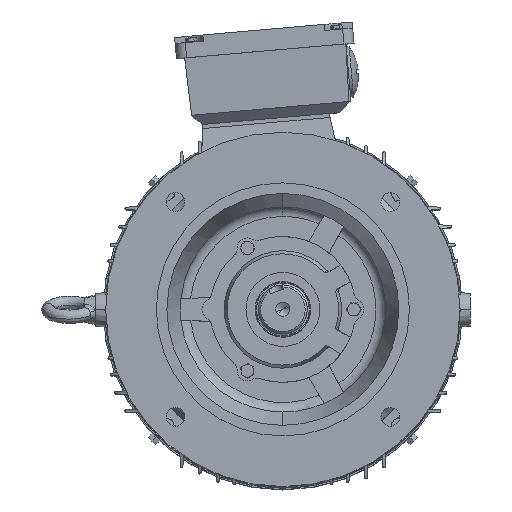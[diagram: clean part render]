
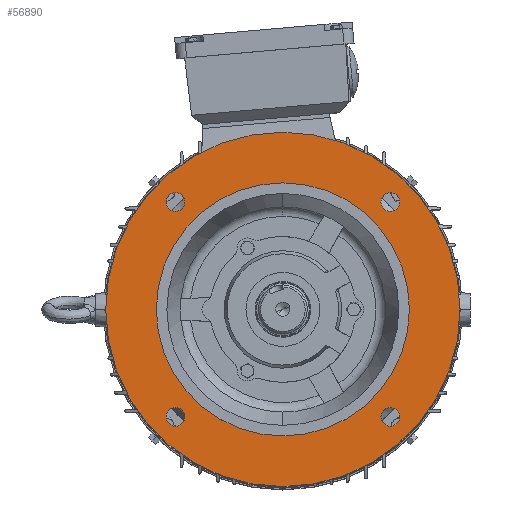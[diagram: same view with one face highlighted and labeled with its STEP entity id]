
A CAD part, top view. The second image highlights one B-rep face of the part: STEP entity #56890.
In plain terms, the highlighted planar face has unit normal (0, 0, 1) as drawn and (-1, 0, 0) by its records, which use the part's own axes.
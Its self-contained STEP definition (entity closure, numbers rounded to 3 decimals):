
#1069 = EDGE_LOOP ( 'NONE', ( #67674, #67675 ) ) ;
#1089 = EDGE_LOOP ( 'NONE', ( #67672, #67673 ) ) ;
#1092 = EDGE_LOOP ( 'NONE', ( #67676, #67677 ) ) ;
#1097 = EDGE_LOOP ( 'NONE', ( #67678, #67679 ) ) ;
#1098 = EDGE_LOOP ( 'NONE', ( #67680, #67681 ) ) ;
#1100 = EDGE_LOOP ( 'NONE', ( #67682, #67683 ) ) ;
#1334 = EDGE_CURVE ( 'NONE', #2054, #2059, #39097, .T. ) ;
#1342 = EDGE_CURVE ( 'NONE', #2069, #2074, #39125, .T. ) ;
#1350 = EDGE_CURVE ( 'NONE', #2082, #2089, #39154, .T. ) ;
#1354 = EDGE_CURVE ( 'NONE', #2091, #2092, #39161, .T. ) ;
#1384 = EDGE_CURVE ( 'NONE', #45980, #45982, #39275, .T. ) ;
#1407 = EDGE_CURVE ( 'NONE', #46013, #46002, #39324, .T. ) ;
#1500 = EDGE_CURVE ( 'NONE', #2074, #2069, #39611, .T. ) ;
#1501 = EDGE_CURVE ( 'NONE', #2092, #2091, #39614, .T. ) ;
#1502 = EDGE_CURVE ( 'NONE', #46002, #46013, #39617, .T. ) ;
#1503 = EDGE_CURVE ( 'NONE', #45982, #45980, #39620, .T. ) ;
#1504 = EDGE_CURVE ( 'NONE', #2089, #2082, #39622, .T. ) ;
#1505 = EDGE_CURVE ( 'NONE', #2059, #2054, #39625, .T. ) ;
#2054 = VERTEX_POINT ( 'NONE', #43311 ) ;
#2059 = VERTEX_POINT ( 'NONE', #43314 ) ;
#2069 = VERTEX_POINT ( 'NONE', #43319 ) ;
#2074 = VERTEX_POINT ( 'NONE', #43322 ) ;
#2082 = VERTEX_POINT ( 'NONE', #43327 ) ;
#2089 = VERTEX_POINT ( 'NONE', #43330 ) ;
#2091 = VERTEX_POINT ( 'NONE', #43331 ) ;
#2092 = VERTEX_POINT ( 'NONE', #43332 ) ;
#5940 = AXIS2_PLACEMENT_3D ( 'NONE', #12607, #12609, #12611 ) ;
#5949 = AXIS2_PLACEMENT_3D ( 'NONE', #12649, #12651, #12652 ) ;
#5959 = AXIS2_PLACEMENT_3D ( 'NONE', #12689, #12691, #12693 ) ;
#5963 = AXIS2_PLACEMENT_3D ( 'NONE', #12710, #12711, #12712 ) ;
#5998 = AXIS2_PLACEMENT_3D ( 'NONE', #30947, #30950, #30953 ) ;
#6027 = AXIS2_PLACEMENT_3D ( 'NONE', #31206, #31208, #31210 ) ;
#6162 = AXIS2_PLACEMENT_3D ( 'NONE', #31679, #31680, #31681 ) ;
#6164 = AXIS2_PLACEMENT_3D ( 'NONE', #31682, #31683, #31684 ) ;
#6166 = AXIS2_PLACEMENT_3D ( 'NONE', #31685, #31686, #31687 ) ;
#6169 = AXIS2_PLACEMENT_3D ( 'NONE', #31688, #31689, #31690 ) ;
#6171 = AXIS2_PLACEMENT_3D ( 'NONE', #31691, #31692, #31693 ) ;
#6173 = AXIS2_PLACEMENT_3D ( 'NONE', #31696, #31697, #31698 ) ;
#12607 = CARTESIAN_POINT ( 'NONE',  ( 5., 106.066, -106.066 ) ) ;
#12609 = DIRECTION ( 'NONE',  ( -1., 0., 0. ) ) ;
#12611 = DIRECTION ( 'NONE',  ( 0., 0., -1. ) ) ;
#12649 = CARTESIAN_POINT ( 'NONE',  ( 5., -106.066, -106.066 ) ) ;
#12651 = DIRECTION ( 'NONE',  ( -1., 0., 0. ) ) ;
#12652 = DIRECTION ( 'NONE',  ( 0., 0., -1. ) ) ;
#12689 = CARTESIAN_POINT ( 'NONE',  ( 5., -106.066, 106.066 ) ) ;
#12691 = DIRECTION ( 'NONE',  ( -1., 0., 0. ) ) ;
#12693 = DIRECTION ( 'NONE',  ( 0., 0., -1. ) ) ;
#12710 = CARTESIAN_POINT ( 'NONE',  ( 5., 106.066, 106.066 ) ) ;
#12711 = DIRECTION ( 'NONE',  ( -1., 0., 0. ) ) ;
#12712 = DIRECTION ( 'NONE',  ( 0., 0., -1. ) ) ;
#30947 = CARTESIAN_POINT ( 'NONE',  ( 5., 0., 0. ) ) ;
#30950 = DIRECTION ( 'NONE',  ( -1., 0., 0. ) ) ;
#30953 = DIRECTION ( 'NONE',  ( 0., 0., 1. ) ) ;
#31206 = CARTESIAN_POINT ( 'NONE',  ( 5., 0., 0. ) ) ;
#31208 = DIRECTION ( 'NONE',  ( -1., 0., 0. ) ) ;
#31210 = DIRECTION ( 'NONE',  ( 0., 0., 1. ) ) ;
#31679 = CARTESIAN_POINT ( 'NONE',  ( 5., -106.066, -106.066 ) ) ;
#31680 = DIRECTION ( 'NONE',  ( -1., 0., 0. ) ) ;
#31681 = DIRECTION ( 'NONE',  ( 0., 0., -1. ) ) ;
#31682 = CARTESIAN_POINT ( 'NONE',  ( 5., 106.066, 106.066 ) ) ;
#31683 = DIRECTION ( 'NONE',  ( -1., 0., 0. ) ) ;
#31684 = DIRECTION ( 'NONE',  ( 0., 0., -1. ) ) ;
#31685 = CARTESIAN_POINT ( 'NONE',  ( 5., 0., 0. ) ) ;
#31686 = DIRECTION ( 'NONE',  ( -1., 0., 0. ) ) ;
#31687 = DIRECTION ( 'NONE',  ( 0., 0., 1. ) ) ;
#31688 = CARTESIAN_POINT ( 'NONE',  ( 5., 0., 0. ) ) ;
#31689 = DIRECTION ( 'NONE',  ( -1., 0., 0. ) ) ;
#31690 = DIRECTION ( 'NONE',  ( 0., 0., 1. ) ) ;
#31691 = CARTESIAN_POINT ( 'NONE',  ( 5., -106.066, 106.066 ) ) ;
#31692 = DIRECTION ( 'NONE',  ( -1., 0., 0. ) ) ;
#31693 = DIRECTION ( 'NONE',  ( 0., 0., -1. ) ) ;
#31696 = CARTESIAN_POINT ( 'NONE',  ( 5., 106.066, -106.066 ) ) ;
#31697 = DIRECTION ( 'NONE',  ( -1., 0., 0. ) ) ;
#31698 = DIRECTION ( 'NONE',  ( 0., 0., -1. ) ) ;
#39097 = CIRCLE ( 'NONE', #5940, 9.25 ) ;
#39125 = CIRCLE ( 'NONE', #5949, 9.25 ) ;
#39154 = CIRCLE ( 'NONE', #5959, 9.25 ) ;
#39161 = CIRCLE ( 'NONE', #5963, 9.25 ) ;
#39275 = CIRCLE ( 'NONE', #5998, 175. ) ;
#39324 = CIRCLE ( 'NONE', #6027, 125. ) ;
#39611 = CIRCLE ( 'NONE', #6162, 9.25 ) ;
#39614 = CIRCLE ( 'NONE', #6164, 9.25 ) ;
#39617 = CIRCLE ( 'NONE', #6166, 125. ) ;
#39620 = CIRCLE ( 'NONE', #6169, 175. ) ;
#39622 = CIRCLE ( 'NONE', #6171, 9.25 ) ;
#39625 = CIRCLE ( 'NONE', #6173, 9.25 ) ;
#43311 = CARTESIAN_POINT ( 'NONE',  ( 5., 106.066, -115.316 ) ) ;
#43314 = CARTESIAN_POINT ( 'NONE',  ( 5., 106.066, -96.816 ) ) ;
#43319 = CARTESIAN_POINT ( 'NONE',  ( 5., -106.066, -115.316 ) ) ;
#43322 = CARTESIAN_POINT ( 'NONE',  ( 5., -106.066, -96.816 ) ) ;
#43327 = CARTESIAN_POINT ( 'NONE',  ( 5., -106.066, 96.816 ) ) ;
#43330 = CARTESIAN_POINT ( 'NONE',  ( 5., -106.066, 115.316 ) ) ;
#43331 = CARTESIAN_POINT ( 'NONE',  ( 5., 106.066, 96.816 ) ) ;
#43332 = CARTESIAN_POINT ( 'NONE',  ( 5., 106.066, 115.316 ) ) ;
#45980 = VERTEX_POINT ( 'NONE', #99540 ) ;
#45982 = VERTEX_POINT ( 'NONE', #99537 ) ;
#46002 = VERTEX_POINT ( 'NONE', #99549 ) ;
#46013 = VERTEX_POINT ( 'NONE', #99556 ) ;
#56890 = ADVANCED_FACE ( 'NONE', ( #94278, #94265, #94283, #94270, #94286, #94281 ), #96952, .F. ) ;
#67672 = ORIENTED_EDGE ( 'NONE', *, *, #1342, .F. ) ;
#67673 = ORIENTED_EDGE ( 'NONE', *, *, #1500, .F. ) ;
#67674 = ORIENTED_EDGE ( 'NONE', *, *, #1354, .F. ) ;
#67675 = ORIENTED_EDGE ( 'NONE', *, *, #1501, .F. ) ;
#67676 = ORIENTED_EDGE ( 'NONE', *, *, #1407, .F. ) ;
#67677 = ORIENTED_EDGE ( 'NONE', *, *, #1502, .F. ) ;
#67678 = ORIENTED_EDGE ( 'NONE', *, *, #1384, .T. ) ;
#67679 = ORIENTED_EDGE ( 'NONE', *, *, #1503, .T. ) ;
#67680 = ORIENTED_EDGE ( 'NONE', *, *, #1350, .F. ) ;
#67681 = ORIENTED_EDGE ( 'NONE', *, *, #1504, .F. ) ;
#67682 = ORIENTED_EDGE ( 'NONE', *, *, #1334, .F. ) ;
#67683 = ORIENTED_EDGE ( 'NONE', *, *, #1505, .F. ) ;
#92039 = AXIS2_PLACEMENT_3D ( 'NONE', #96954, #96945, #96956 ) ;
#94265 = FACE_BOUND ( 'NONE', #1069, .T. ) ;
#94270 = FACE_OUTER_BOUND ( 'NONE', #1097, .T. ) ;
#94278 = FACE_BOUND ( 'NONE', #1089, .T. ) ;
#94281 = FACE_BOUND ( 'NONE', #1100, .T. ) ;
#94283 = FACE_BOUND ( 'NONE', #1092, .T. ) ;
#94286 = FACE_BOUND ( 'NONE', #1098, .T. ) ;
#96945 = DIRECTION ( 'NONE',  ( 1., 0., 0. ) ) ;
#96952 = PLANE ( 'NONE',  #92039 ) ;
#96954 = CARTESIAN_POINT ( 'NONE',  ( 5., 125., 0. ) ) ;
#96956 = DIRECTION ( 'NONE',  ( 0., 0., -1. ) ) ;
#99537 = CARTESIAN_POINT ( 'NONE',  ( 5., 0., -175. ) ) ;
#99540 = CARTESIAN_POINT ( 'NONE',  ( 5., 0., 175. ) ) ;
#99549 = CARTESIAN_POINT ( 'NONE',  ( 5., 0., -125. ) ) ;
#99556 = CARTESIAN_POINT ( 'NONE',  ( 5., 0., 125. ) ) ;
